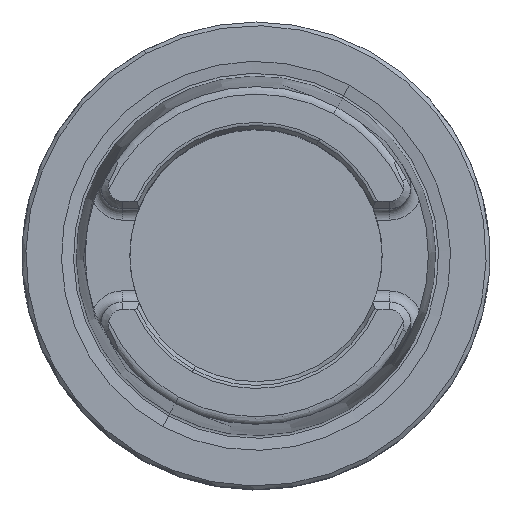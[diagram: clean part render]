
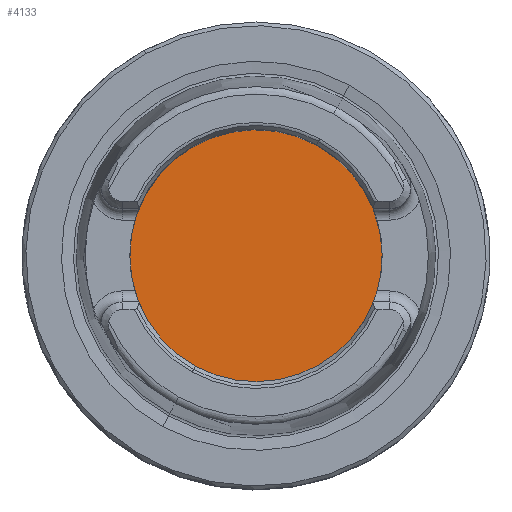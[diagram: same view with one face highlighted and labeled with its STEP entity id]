
A CAD part, top view. The second image highlights one B-rep face of the part: STEP entity #4133.
In plain terms, the highlighted planar face has unit normal (0, 0, 1).
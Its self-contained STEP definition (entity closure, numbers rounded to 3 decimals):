
#4113=AXIS2_PLACEMENT_3D('Plane Axis2P3D',#4110,#4111,#4112) ;
#4117=AXIS2_PLACEMENT_3D('Circle Axis2P3D',#4115,#4116,$) ;
#4126=AXIS2_PLACEMENT_3D('Circle Axis2P3D',#4124,#4125,$) ;
#4110=CARTESIAN_POINT('Axis2P3D Location',(0.,-15.75,-10.)) ;
#4115=CARTESIAN_POINT('Axis2P3D Location',(0.,0.,-10.)) ;
#4119=CARTESIAN_POINT('Vertex',(8.15,14.919,-10.)) ;
#4121=CARTESIAN_POINT('Vertex',(-8.15,-14.919,-10.)) ;
#4124=CARTESIAN_POINT('Axis2P3D Location',(0.,0.,-10.)) ;
#4111=DIRECTION('Axis2P3D Direction',(0.,0.,-1.)) ;
#4112=DIRECTION('Axis2P3D XDirection',(-1.,0.,0.)) ;
#4116=DIRECTION('Axis2P3D Direction',(0.,0.,-1.)) ;
#4125=DIRECTION('Axis2P3D Direction',(0.,0.,-1.)) ;
#4130=ORIENTED_EDGE('',*,*,#4123,.T.) ;
#4131=ORIENTED_EDGE('',*,*,#4128,.T.) ;
#4133=ADVANCED_FACE('NO_CUT',(#4132),#4114,.F.) ;
#4118=CIRCLE('generated circle',#4117,17.) ;
#4127=CIRCLE('generated circle',#4126,17.) ;
#4123=EDGE_CURVE('',#4120,#4122,#4118,.F.) ;
#4128=EDGE_CURVE('',#4122,#4120,#4127,.F.) ;
#4129=EDGE_LOOP('',(#4130,#4131)) ;
#4132=FACE_OUTER_BOUND('',#4129,.T.) ;
#4114=PLANE('',#4113) ;
#4120=VERTEX_POINT('',#4119) ;
#4122=VERTEX_POINT('',#4121) ;
